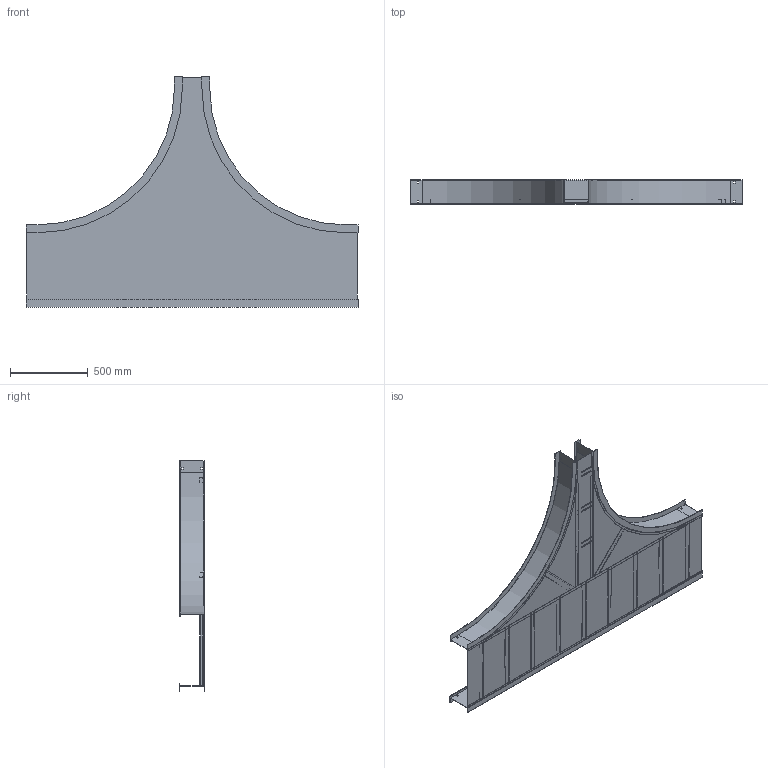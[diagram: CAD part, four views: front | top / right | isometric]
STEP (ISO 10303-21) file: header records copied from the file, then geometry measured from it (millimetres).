
FILE_DESCRIPTION((''),'2;1');
FILE_NAME('AHF61806SRT36_ASM','2010-02-10T',('erouzier'),(''),'PRO/ENGINEER BY PARAMETRIC TECHNOLOGY CORPORATION, 2008510','PRO/ENGINEER BY PARAMETRIC TECHNOLOGY CORPORATION, 2008510','');
FILE_SCHEMA(('CONFIG_CONTROL_DESIGN'));
Length unit declared in the file: inch
Products named in the file (21): CDS001812-6-90-36-I; CDS013847-6-84; CDS000495_GEN_AF9; CDS002159L18_AF21; CDS002159L18_AF22; CDS002159L18_AF23; CDS002159L18_AF24; CDS002159L18_AF25; CDS002159L18_AF26; CDS002159L18_AF27; CDS002159L18; CDS002159L18_AF28; CDS000495_GEN_AF10; CDS000495_GEN_AF11; CDS002159L18_AF19; CDS002159L18_AF20; CDS002159L6_AF3; CDS002159L6_AF4; CDS002159L6_AF5; CDS014192-18-36-6; AHF61806SRT36_ASM
Assembly tree (21 placements, depth 2):
  AHF61806SRT36_ASM
    CDS001812-6-90-36-I  x2
    CDS013847-6-84
    CDS000495_GEN_AF9
    CDS002159L18_AF21
    CDS002159L18_AF22
    CDS002159L18_AF23
    CDS002159L18_AF24
    CDS002159L18_AF25
    CDS002159L18_AF26
    CDS002159L18_AF27
    CDS002159L18
    CDS002159L18_AF28
    CDS000495_GEN_AF10
    CDS000495_GEN_AF11
    CDS002159L18_AF19
    CDS002159L18_AF20
    CDS002159L6_AF3
    CDS002159L6_AF4
    CDS002159L6_AF5
    CDS014192-18-36-6
Bounding box: 2138.68 x 160.02 x 1487.55 mm (x, y, z)
Volume: 6249670.2 mm3; surface area: 7420866.3 mm2
Topology: 21 solids, 21 shells, 576 faces, 1602 edges, 1068 vertices
Faces by surface type: plane 408, cylinder 168
Entity records: 17675 total; most frequent: CARTESIAN_POINT 3218, ORIENTED_EDGE 2964, DIRECTION 2914, EDGE_CURVE 1482, VECTOR 1158, LINE 1158, VERTEX_POINT 988, AXIS2_PLACEMENT_3D 878
